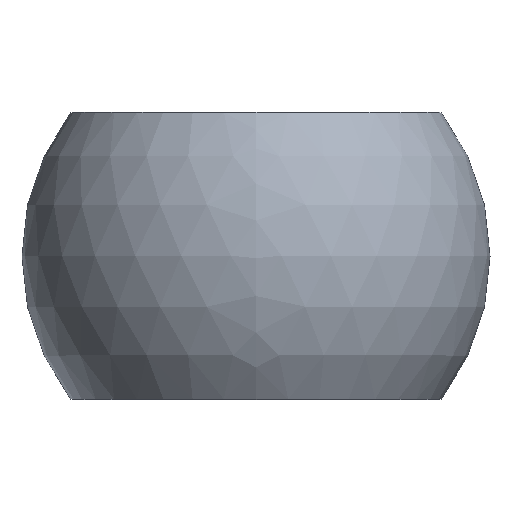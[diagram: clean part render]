
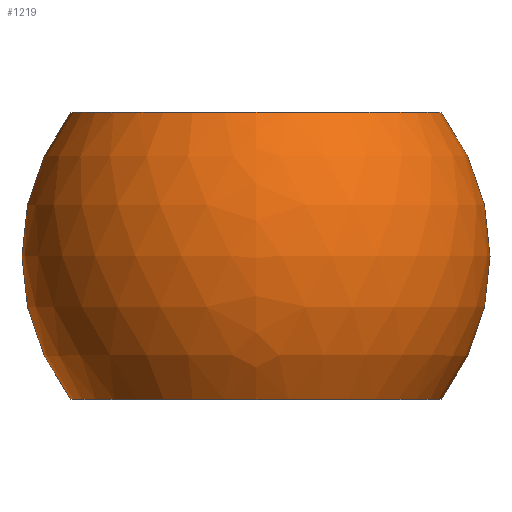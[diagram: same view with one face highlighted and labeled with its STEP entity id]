
A CAD part, top view. The second image highlights one B-rep face of the part: STEP entity #1219.
In plain terms, the highlighted spherical face has radius 49 mm.
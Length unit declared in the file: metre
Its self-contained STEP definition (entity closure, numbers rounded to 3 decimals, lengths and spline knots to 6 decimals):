
#1219=ADVANCED_FACE('',(#2672,#2673),#2674,.T.);
#2672=FACE_OUTER_BOUND('',#4181,.T.);
#2673=FACE_OUTER_BOUND('',#4182,.T.);
#2674=SPHERICAL_SURFACE('',#4183,0.049);
#4181=EDGE_LOOP('',(#6164));
#4182=EDGE_LOOP('',(#6165));
#4183=AXIS2_PLACEMENT_3D('',#6166,#6167,#6168);
#6164=ORIENTED_EDGE('',*,*,#6382,.F.);
#6165=ORIENTED_EDGE('',*,*,#6852,.T.);
#6166=CARTESIAN_POINT('',(0.594733,0.47148,0.));
#6167=DIRECTION('',(0.0,1.0,0.0));
#6168=DIRECTION('',(-1.0,0.0,0.0));
#6382=EDGE_CURVE('',#7166,#7166,#7167,.T.);
#6852=EDGE_CURVE('',#7872,#7872,#7873,.T.);
#7166=VERTEX_POINT('',#8187);
#7167=CIRCLE('',#8188,0.038743);
#7872=VERTEX_POINT('',#8893);
#7873=CIRCLE('',#8894,0.038743);
#8187=CARTESIAN_POINT('',(0.594733,0.50148,0.038743));
#8188=AXIS2_PLACEMENT_3D('',#9253,#9254,#9255);
#8893=CARTESIAN_POINT('',(0.594733,0.44148,0.038743));
#8894=AXIS2_PLACEMENT_3D('',#9961,#9962,#9963);
#9253=CARTESIAN_POINT('',(0.594733,0.50148,0.0));
#9254=DIRECTION('',(0.0,1.0,0.0));
#9255=DIRECTION('',(0.0,0.0,1.0));
#9961=CARTESIAN_POINT('',(0.594733,0.44148,0.0));
#9962=DIRECTION('',(0.0,1.0,0.0));
#9963=DIRECTION('',(0.0,0.0,1.0));
